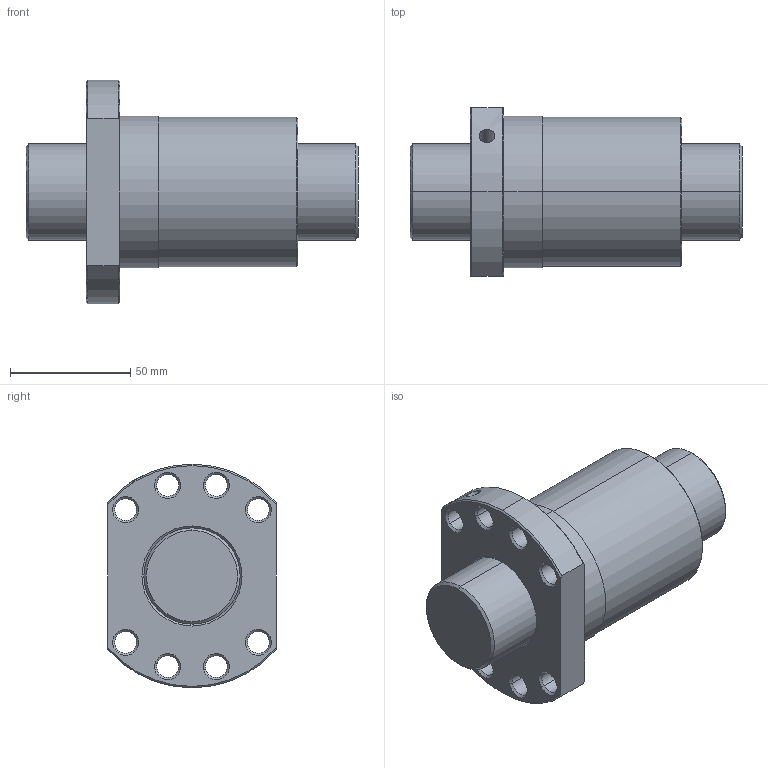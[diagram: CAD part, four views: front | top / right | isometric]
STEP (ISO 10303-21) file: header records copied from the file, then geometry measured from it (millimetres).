
FILE_DESCRIPTION(('no description'),'unknown implementation level');
FILE_NAME('R40_10T4_DEB_138_138_0_023_32.stp',' ',('HIWIN GmbH'),('CADClick - KiM GmbH - www.kimweb.de'),'unknown preprocess','ACIS','unknown authorization');
FILE_SCHEMA(('CONFIG_CONTROL_DESIGN'));
Length unit declared in the file: millimetre
Products named in the file (2): 1; 2
Bounding box: 138 x 70 x 93 mm (x, y, z)
Volume: 361255.3 mm3; surface area: 60227.8 mm2
Topology: 2 solids, 2 shells, 90 faces, 204 edges, 119 vertices
Faces by surface type: cone 52, cylinder 30, plane 8
Entity records: 2677 total; most frequent: CARTESIAN_POINT 496, DIRECTION 484, ORIENTED_EDGE 404, EDGE_CURVE 202, AXIS2_PLACEMENT_3D 200, VERTEX_POINT 119, EDGE_LOOP 111, CIRCLE 108
